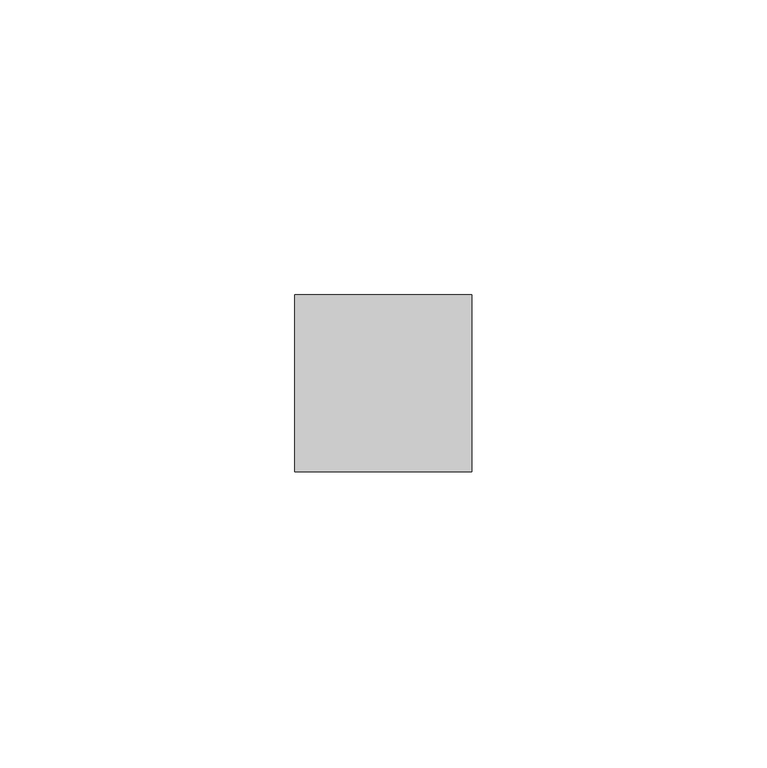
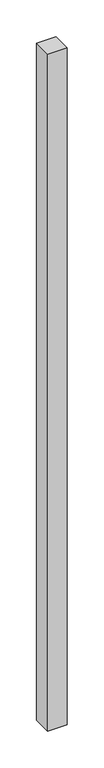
"""IFC4 building model written with IfcOpenShell, lengths in millimetres: member geometry, 矩形竖梃 : 30mm 正方形."""

from ifc_helpers import new_model, si_unit, frame, origin, place, context, project, spatial, polyline, outline, extrude, source, transform, mapped, element, save


def member_cb581688(model_context):
    return source(origin(), model_context, "Body", "SweptSolid", [
        extrude(outline(polyline([(0.0, 15.0), (0.0, -15.0), (-30.0, -15.0), (-30.0, 15.0), (0.0, 15.0)])), frame((0.0, 0.0, -1120.0), z_axis=(0.0, 0.0, 1.0), x_axis=(1.0, 0.0, 0.0)), (0.0, 0.0, 1.0), 1120.0),
    ])


if __name__ == "__main__":
    model = new_model("IFC4")
    model_context = context("Model", 3, world=origin())
    ifc_project = project(units=[si_unit("LENGTHUNIT", "METRE", prefix="MILLI")], contexts=[model_context])
    site = spatial("IfcSite", under=ifc_project)
    building = spatial("IfcBuilding", under=site)
    placement = place(None, origin())
    member_shape = member_cb581688(model_context)
    element("IfcMember", 1, ObjectType="矩形竖梃 : 30mm 正方形", at=placement, inside=building, context=model_context, shape_type="MappedRepresentation", body=[
        mapped(member_shape, transform((0.0, 0.0, 0.0), x_axis=(1.0, 0.0, 0.0), y_axis=(0.0, 1.0, 0.0), z_axis=(0.0, 0.0, 1.0))),
    ])
    save(model, "model.ifc")
